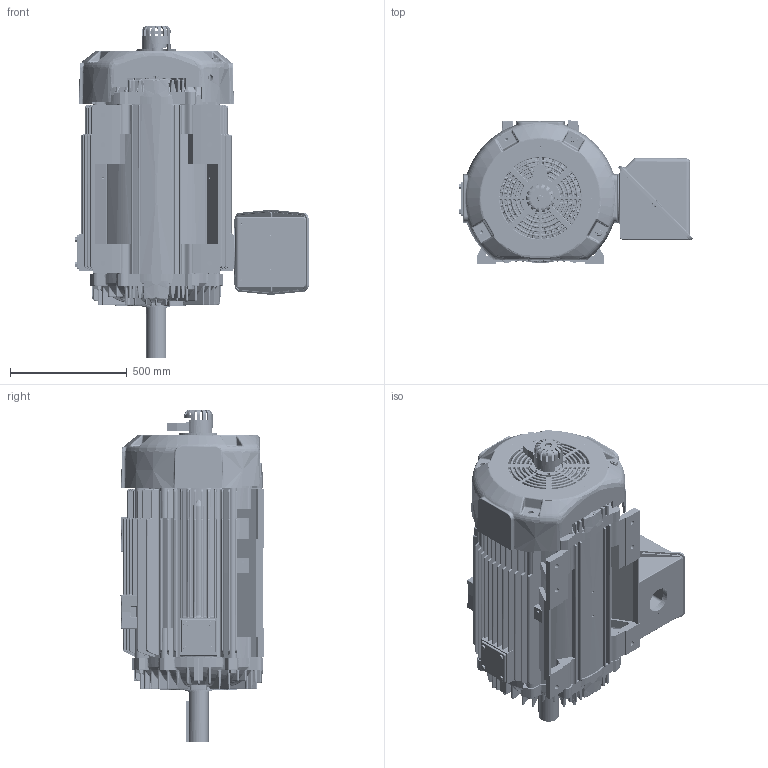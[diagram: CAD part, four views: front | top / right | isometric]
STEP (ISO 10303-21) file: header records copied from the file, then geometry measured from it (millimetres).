
FILE_DESCRIPTION (( 'STEP AP203' ), '1' );
FILE_NAME ('SS552366-2875_RevA.STEP', '2020-08-04T13:41:17', ( '' ), ( '' ), 'SwSTEP 2.0', 'SolidWorks 2018', '' );
FILE_SCHEMA (( 'CONFIG_CONTROL_DESIGN' ));
Products named in the file (1): SS552366-2875_RevA
Bounding box: 1001.39 x 613.09 x 1423.28 mm (x, y, z)
Volume: 83791200.7 mm3; surface area: 11365647.5 mm2
Topology: 33 solids, 34 shells, 8503 faces, 21326 edges, 12776 vertices
Faces by surface type: bspline 2603, cylinder 2029, plane 1639, torus 1107, cone 569, sphere 556
Entity records: 400691 total; most frequent: CARTESIAN_POINT 218174, ORIENTED_EDGE 42128, DIRECTION 33965, EDGE_CURVE 21064, AXIS2_PLACEMENT_3D 14347, VERTEX_POINT 12735, EDGE_LOOP 8969, FACE_OUTER_BOUND 8503
